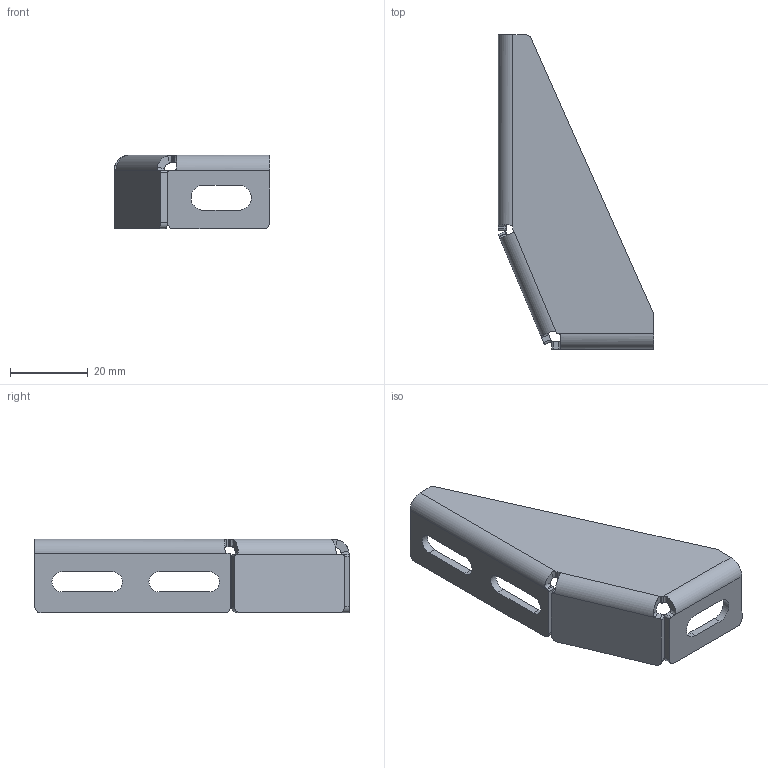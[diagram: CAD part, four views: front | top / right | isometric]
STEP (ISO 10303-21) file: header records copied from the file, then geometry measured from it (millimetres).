
FILE_DESCRIPTION (( 'STEP AP214' ), '1' );
FILE_NAME ('7141S.STEP', '2015-10-16T10:16:14', ( '' ), ( '' ), 'SwSTEP 2.0', 'SolidWorks 2014', '' );
FILE_SCHEMA (( 'AUTOMOTIVE_DESIGN' ));
Length unit declared in the file: millimetre
Products named in the file (1): 7141S
Bounding box: 40.03 x 81 x 19 mm (x, y, z)
Volume: 6591.8 mm3; surface area: 7472.6 mm2
Topology: 1 solids, 1 shells, 76 faces, 198 edges, 124 vertices
Faces by surface type: plane 40, cylinder 28, bspline 8
Entity records: 2575 total; most frequent: CARTESIAN_POINT 710, ORIENTED_EDGE 396, DIRECTION 360, EDGE_CURVE 198, AXIS2_PLACEMENT_3D 125, VERTEX_POINT 124, LINE 110, VECTOR 110
